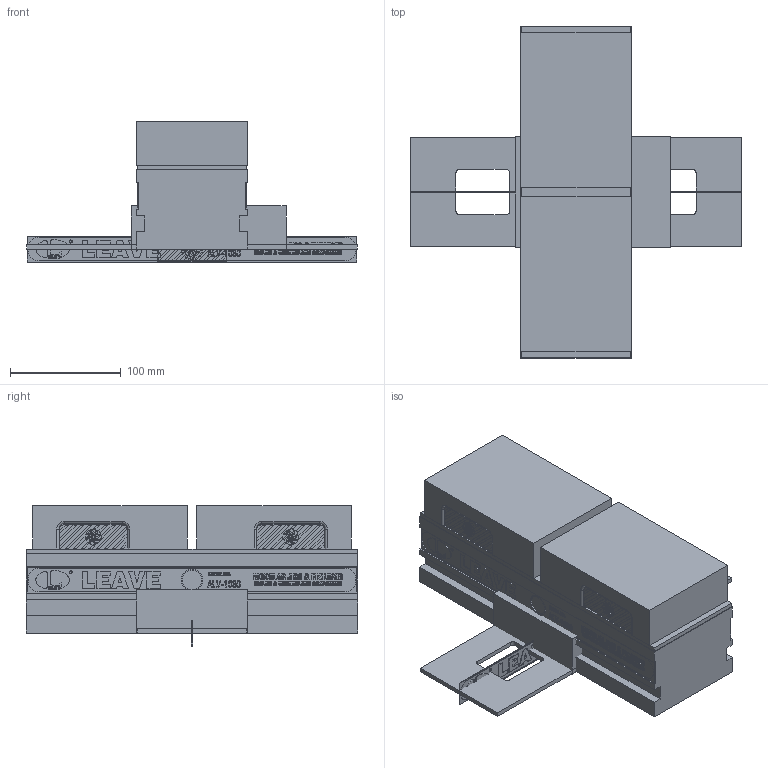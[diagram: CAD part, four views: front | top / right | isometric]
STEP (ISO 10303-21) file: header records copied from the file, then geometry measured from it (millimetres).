
FILE_DESCRIPTION( ( 'Unknown' ), '1' );
FILE_NAME( 's:/Solid Edge/給客戶的CD-3D/ALV-3D/ALV-1030/ALV-1030-組件/ALV-1030-1.stp', 'Unknown', ( 'S.C.H' ), ( 'Unknown' ), 'XStep 1.0', 'Unknown', ' ' );
FILE_SCHEMA( ( 'CONFIG_CONTROL_DESIGN' ) );
Length unit declared in the file: millimetre
Products named in the file (8): Assem1; Assem2; Assem3; 1; 2; 3; 4; 5
Bounding box: 299 x 300 x 126.75 mm (x, y, z)
Volume: 8411341.9 mm3; surface area: 833717.8 mm2
Topology: 21 solids, 21 shells, 7441 faces, 19872 edges, 13255 vertices
Faces by surface type: plane 4630, extrusion 1490, cylinder 1305, torus 16
Full cylindrical faces by diameter (mm): 2.597 x5, 2.717 x5, 12 x33, 17.5 x5, 19.5 x5, 20 x9
Entity records: 49385 total; most frequent: CARTESIAN_POINT 13267, ORIENTED_EDGE 7734, DIRECTION 6438, EDGE_CURVE 3867, VECTOR 3054, LINE 2756, VERTEX_POINT 2590, AXIS2_PLACEMENT_3D 1692
